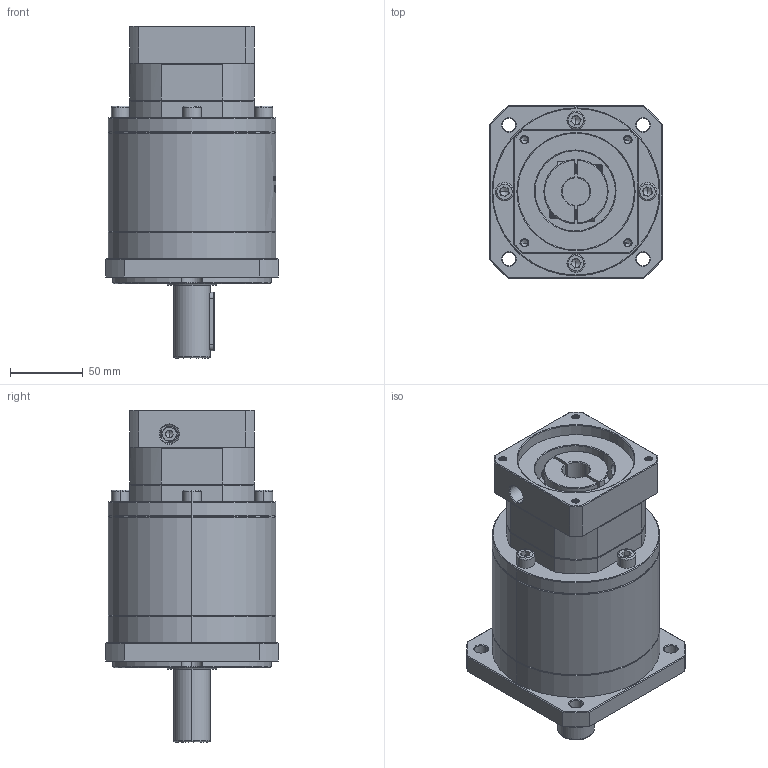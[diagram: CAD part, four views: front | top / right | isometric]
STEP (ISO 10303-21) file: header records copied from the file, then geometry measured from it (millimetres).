
FILE_DESCRIPTION (( 'STEP AP214' ), '1' );
FILE_NAME ('ZF120A-D25-L3-19-80-100-M6.step', '2023-03-07T15:01:20', ( '' ), ( 'Microsoft' ), 'SwSTEP 2.0', 'SolidWorks 2016', '' );
FILE_SCHEMA (( 'AUTOMOTIVE_DESIGN' ));
Length unit declared in the file: millimetre
Products named in the file (1): ZF120A-D25-L3-19-80-100-M6
Bounding box: 118 x 118 x 227.5 mm (x, y, z)
Volume: 1561543.5 mm3; surface area: 137338.6 mm2
Topology: 5 solids, 6 shells, 1937 faces, 5077 edges, 3232 vertices
Faces by surface type: plane 887, cylinder 402, bspline 321, cone 312, torus 15
Entity records: 105100 total; most frequent: CARTESIAN_POINT 39932, ORIENTED_EDGE 10094, DIRECTION 7785, EDGE_CURVE 5047, VERTEX_POINT 3232, LINE 2749, VECTOR 2749, AXIS2_PLACEMENT_3D 2518
